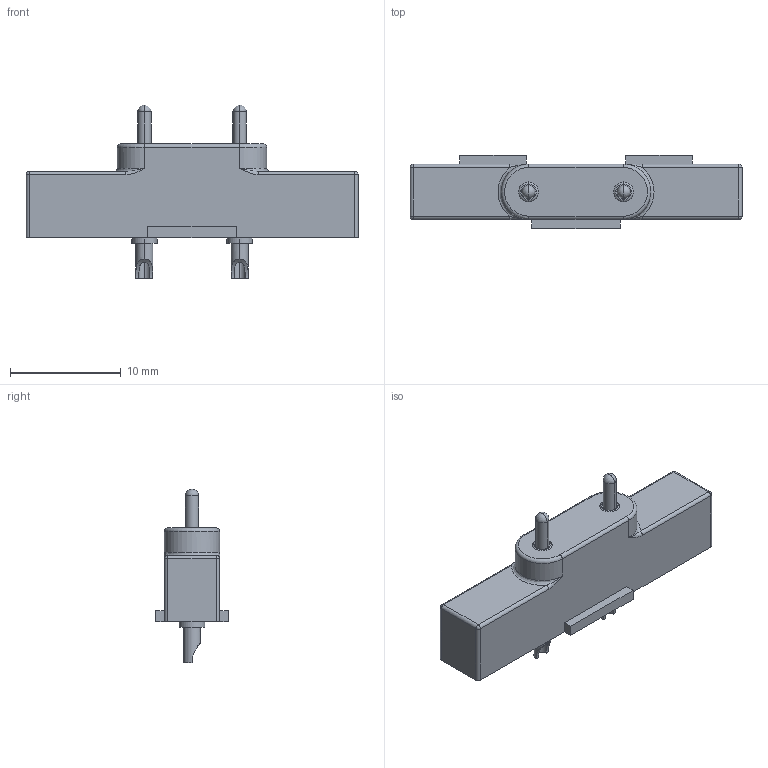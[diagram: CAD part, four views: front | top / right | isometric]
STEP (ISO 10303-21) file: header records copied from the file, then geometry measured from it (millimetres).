
FILE_DESCRIPTION((''),'2;1');
FILE_NAME('H1101-02A_1_1','2022-05-25T09:01:09',('Administrator'),(''),'CREO PARAMETRIC BY PTC INC, 2018400','CREO PARAMETRIC BY PTC INC, 2018400','');
FILE_SCHEMA(('CONFIG_CONTROL_DESIGN'));
Length unit declared in the file: millimetre
Products named in the file (1): H1101-02A_1_1
Bounding box: 30 x 6.6 x 15.7 mm (x, y, z)
Volume: 1001.5 mm3; surface area: 1068.8 mm2
Topology: 1 solids, 1 shells, 101 faces, 259 edges, 159 vertices
Faces by surface type: cylinder 46, plane 31, sphere 8, torus 8, bspline 4, cone 4
Entity records: 3301 total; most frequent: CARTESIAN_POINT 818, DIRECTION 546, ORIENTED_EDGE 490, EDGE_CURVE 245, AXIS2_PLACEMENT_3D 220, VERTEX_POINT 159, CIRCLE 123, EDGE_LOOP 114
